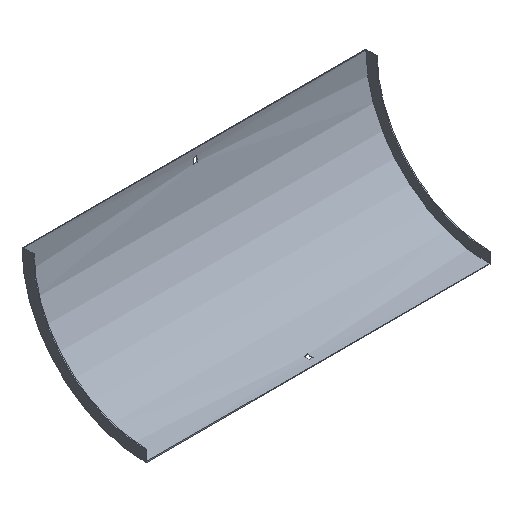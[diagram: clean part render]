
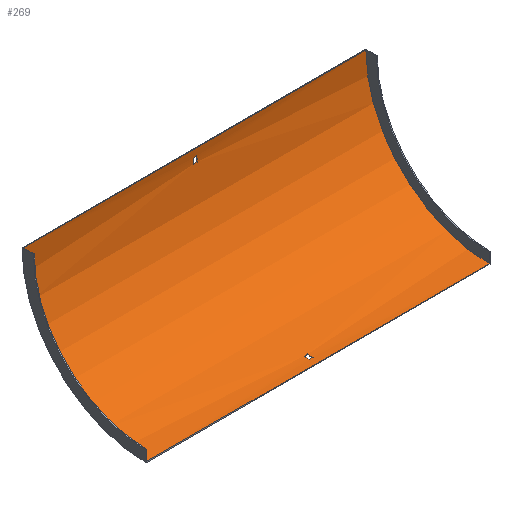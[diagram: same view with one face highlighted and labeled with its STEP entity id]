
A CAD part, isometric view. The second image highlights one B-rep face of the part: STEP entity #269.
In plain terms, the highlighted cylindrical face has radius 217.5 mm (diameter 435 mm), a partial arc.
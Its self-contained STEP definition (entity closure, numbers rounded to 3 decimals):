
#1 = LINE ( 'NONE', #561, #539 ) ;
#8 = CIRCLE ( 'NONE', #267, 217.5 ) ;
#9 = FACE_BOUND ( 'NONE', #131, .T. ) ;
#13 = EDGE_CURVE ( 'NONE', #108, #233, #533, .T. ) ;
#14 = CARTESIAN_POINT ( 'NONE',  ( 302., -1.5, 0. ) ) ;
#24 = EDGE_CURVE ( 'NONE', #436, #99, #550, .T. ) ;
#32 = DIRECTION ( 'NONE',  ( -1., 0., 0. ) ) ;
#36 = ORIENTED_EDGE ( 'NONE', *, *, #375, .T. ) ;
#53 = DIRECTION ( 'NONE',  ( 1., 0., 0. ) ) ;
#57 = CARTESIAN_POINT ( 'NONE',  ( 3.25, -219., 0. ) ) ;
#63 = EDGE_LOOP ( 'NONE', ( #159, #283, #285, #590 ) ) ;
#79 = EDGE_CURVE ( 'NONE', #154, #273, #552, .T. ) ;
#83 = CARTESIAN_POINT ( 'NONE',  ( -3.25, -219., 0. ) ) ;
#84 = DIRECTION ( 'NONE',  ( 1., 0., 0. ) ) ;
#87 = DIRECTION ( 'NONE',  ( 0., 0., 1. ) ) ;
#93 = DIRECTION ( 'NONE',  ( 0., 0., -1. ) ) ;
#99 = VERTEX_POINT ( 'NONE', #446 ) ;
#106 = CARTESIAN_POINT ( 'NONE',  ( -3.25, -198., -216.484 ) ) ;
#107 = AXIS2_PLACEMENT_3D ( 'NONE', #166, #32, #588 ) ;
#108 = VERTEX_POINT ( 'NONE', #173 ) ;
#116 = ORIENTED_EDGE ( 'NONE', *, *, #360, .F. ) ;
#124 = CARTESIAN_POINT ( 'NONE',  ( 303.5, -1.831, -12. ) ) ;
#126 = ORIENTED_EDGE ( 'NONE', *, *, #405, .T. ) ;
#131 = EDGE_LOOP ( 'NONE', ( #481, #126, #36, #261 ) ) ;
#135 = VECTOR ( 'NONE', #213, 1000. ) ;
#141 = DIRECTION ( 'NONE',  ( 0., 0., 1. ) ) ;
#143 = DIRECTION ( 'NONE',  ( 1., 0., 0. ) ) ;
#147 = VERTEX_POINT ( 'NONE', #499 ) ;
#148 = CARTESIAN_POINT ( 'NONE',  ( 303.5, -219., 0. ) ) ;
#154 = VERTEX_POINT ( 'NONE', #607 ) ;
#159 = ORIENTED_EDGE ( 'NONE', *, *, #576, .F. ) ;
#166 = CARTESIAN_POINT ( 'NONE',  ( 3.25, -219., 0. ) ) ;
#168 = DIRECTION ( 'NONE',  ( 0., 0., 1. ) ) ;
#173 = CARTESIAN_POINT ( 'NONE',  ( 302., -219., -217.5 ) ) ;
#192 = VECTOR ( 'NONE', #53, 1000. ) ;
#213 = DIRECTION ( 'NONE',  ( -1., 0., 0. ) ) ;
#231 = DIRECTION ( 'NONE',  ( 0., 0., 1. ) ) ;
#232 = LINE ( 'NONE', #566, #474 ) ;
#233 = VERTEX_POINT ( 'NONE', #456 ) ;
#251 = EDGE_CURVE ( 'NONE', #273, #599, #316, .T. ) ;
#261 = ORIENTED_EDGE ( 'NONE', *, *, #24, .T. ) ;
#267 = AXIS2_PLACEMENT_3D ( 'NONE', #515, #509, #93 ) ;
#269 = ADVANCED_FACE ( 'NONE', ( #362, #560, #9 ), #330, .F. ) ;
#273 = VERTEX_POINT ( 'NONE', #477 ) ;
#283 = ORIENTED_EDGE ( 'NONE', *, *, #387, .F. ) ;
#285 = ORIENTED_EDGE ( 'NONE', *, *, #13, .T. ) ;
#289 = VERTEX_POINT ( 'NONE', #574 ) ;
#301 = CARTESIAN_POINT ( 'NONE',  ( -302., -219., 0. ) ) ;
#314 = AXIS2_PLACEMENT_3D ( 'NONE', #57, #324, #328 ) ;
#315 = EDGE_CURVE ( 'NONE', #382, #154, #384, .T. ) ;
#316 = CIRCLE ( 'NONE', #394, 217.5 ) ;
#321 = CIRCLE ( 'NONE', #504, 217.5 ) ;
#324 = DIRECTION ( 'NONE',  ( 1., 0., 0. ) ) ;
#328 = DIRECTION ( 'NONE',  ( 0., 0., -1. ) ) ;
#329 = EDGE_LOOP ( 'NONE', ( #421, #451, #567, #116 ) ) ;
#330 = CYLINDRICAL_SURFACE ( 'NONE', #562, 217.5 ) ;
#335 = LINE ( 'NONE', #419, #192 ) ;
#336 = LINE ( 'NONE', #475, #135 ) ;
#343 = DIRECTION ( 'NONE',  ( -1., 0., 0. ) ) ;
#344 = EDGE_CURVE ( 'NONE', #233, #147, #427, .T. ) ;
#349 = VERTEX_POINT ( 'NONE', #106 ) ;
#360 = EDGE_CURVE ( 'NONE', #599, #382, #335, .T. ) ;
#362 = FACE_BOUND ( 'NONE', #329, .T. ) ;
#375 = EDGE_CURVE ( 'NONE', #349, #436, #1, .T. ) ;
#380 = DIRECTION ( 'NONE',  ( -1., 0., 0. ) ) ;
#381 = CARTESIAN_POINT ( 'NONE',  ( -302., -219., -217.5 ) ) ;
#382 = VERTEX_POINT ( 'NONE', #512 ) ;
#384 = CIRCLE ( 'NONE', #314, 217.5 ) ;
#387 = EDGE_CURVE ( 'NONE', #108, #554, #232, .T. ) ;
#394 = AXIS2_PLACEMENT_3D ( 'NONE', #83, #453, #87 ) ;
#405 = EDGE_CURVE ( 'NONE', #289, #349, #8, .T. ) ;
#419 = CARTESIAN_POINT ( 'NONE',  ( 303.5, -2.516, -21. ) ) ;
#421 = ORIENTED_EDGE ( 'NONE', *, *, #251, .F. ) ;
#423 = CARTESIAN_POINT ( 'NONE',  ( 3.25, -198., -216.484 ) ) ;
#427 = LINE ( 'NONE', #14, #464 ) ;
#436 = VERTEX_POINT ( 'NONE', #423 ) ;
#446 = CARTESIAN_POINT ( 'NONE',  ( 3.25, -207., -217.169 ) ) ;
#449 = CARTESIAN_POINT ( 'NONE',  ( 302., -219., 0. ) ) ;
#451 = ORIENTED_EDGE ( 'NONE', *, *, #79, .F. ) ;
#453 = DIRECTION ( 'NONE',  ( -1., 0., 0. ) ) ;
#456 = CARTESIAN_POINT ( 'NONE',  ( 302., -1.5, 0. ) ) ;
#458 = DIRECTION ( 'NONE',  ( -1., 0., 0. ) ) ;
#464 = VECTOR ( 'NONE', #380, 1000. ) ;
#474 = VECTOR ( 'NONE', #458, 1000. ) ;
#475 = CARTESIAN_POINT ( 'NONE',  ( 303.5, -207., -217.169 ) ) ;
#477 = CARTESIAN_POINT ( 'NONE',  ( -3.25, -1.831, -12. ) ) ;
#481 = ORIENTED_EDGE ( 'NONE', *, *, #521, .T. ) ;
#488 = DIRECTION ( 'NONE',  ( 1., 0., 0. ) ) ;
#499 = CARTESIAN_POINT ( 'NONE',  ( -302., -1.5, 0. ) ) ;
#504 = AXIS2_PLACEMENT_3D ( 'NONE', #301, #488, #141 ) ;
#509 = DIRECTION ( 'NONE',  ( 1., 0., 0. ) ) ;
#512 = CARTESIAN_POINT ( 'NONE',  ( 3.25, -2.516, -21. ) ) ;
#513 = CARTESIAN_POINT ( 'NONE',  ( -3.25, -2.516, -21. ) ) ;
#515 = CARTESIAN_POINT ( 'NONE',  ( -3.25, -219., 0. ) ) ;
#521 = EDGE_CURVE ( 'NONE', #99, #289, #336, .T. ) ;
#533 = CIRCLE ( 'NONE', #591, 217.5 ) ;
#539 = VECTOR ( 'NONE', #143, 1000. ) ;
#541 = VECTOR ( 'NONE', #343, 1000. ) ;
#550 = CIRCLE ( 'NONE', #107, 217.5 ) ;
#552 = LINE ( 'NONE', #124, #541 ) ;
#554 = VERTEX_POINT ( 'NONE', #381 ) ;
#560 = FACE_OUTER_BOUND ( 'NONE', #63, .T. ) ;
#561 = CARTESIAN_POINT ( 'NONE',  ( 303.5, -198., -216.484 ) ) ;
#562 = AXIS2_PLACEMENT_3D ( 'NONE', #148, #568, #231 ) ;
#566 = CARTESIAN_POINT ( 'NONE',  ( 302., -219., -217.5 ) ) ;
#567 = ORIENTED_EDGE ( 'NONE', *, *, #315, .F. ) ;
#568 = DIRECTION ( 'NONE',  ( -1., 0., 0. ) ) ;
#574 = CARTESIAN_POINT ( 'NONE',  ( -3.25, -207., -217.169 ) ) ;
#576 = EDGE_CURVE ( 'NONE', #554, #147, #321, .T. ) ;
#588 = DIRECTION ( 'NONE',  ( 0., 0., 1. ) ) ;
#590 = ORIENTED_EDGE ( 'NONE', *, *, #344, .T. ) ;
#591 = AXIS2_PLACEMENT_3D ( 'NONE', #449, #84, #168 ) ;
#599 = VERTEX_POINT ( 'NONE', #513 ) ;
#607 = CARTESIAN_POINT ( 'NONE',  ( 3.25, -1.831, -12. ) ) ;
